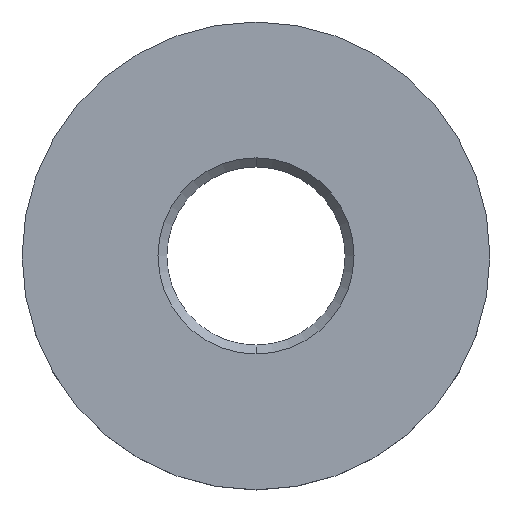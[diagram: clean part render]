
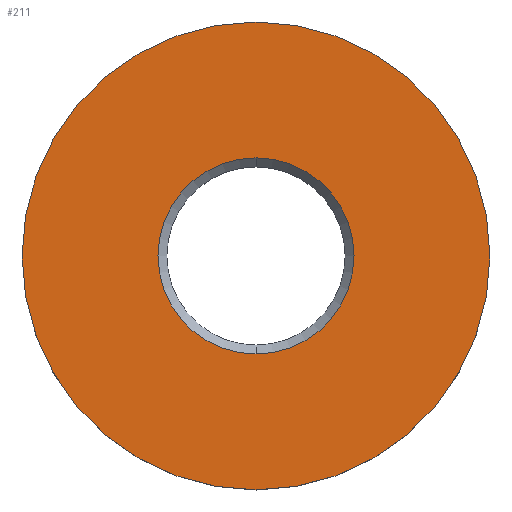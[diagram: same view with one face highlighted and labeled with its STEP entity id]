
A CAD part, top view. The second image highlights one B-rep face of the part: STEP entity #211.
In plain terms, the highlighted free-form (B-spline) face has degree [1, 1] with [2, 2] control points.
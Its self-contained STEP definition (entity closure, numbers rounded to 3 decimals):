
#58=CARTESIAN_POINT('',(0.,0.,3.));
#59=DIRECTION('',(0.,0.,1.));
#60=DIRECTION('',(0.,1.,0.));
#61=AXIS2_PLACEMENT_3D('',#58,#59,#60);
#63=CARTESIAN_POINT('',(0.,0.,3.));
#64=DIRECTION('',(0.,0.,1.));
#65=DIRECTION('',(0.,-1.,0.));
#66=AXIS2_PLACEMENT_3D('',#63,#64,#65);
#68=CARTESIAN_POINT('',(0.,0.,3.));
#69=DIRECTION('',(0.,0.,-1.));
#70=DIRECTION('',(0.,1.,0.));
#71=AXIS2_PLACEMENT_3D('',#68,#69,#70);
#73=CARTESIAN_POINT('',(0.,0.,3.));
#74=DIRECTION('',(0.,0.,-1.));
#75=DIRECTION('',(0.,-1.,0.));
#76=AXIS2_PLACEMENT_3D('',#73,#74,#75);
#107=CARTESIAN_POINT('',(0.,10.5,3.));
#108=CARTESIAN_POINT('',(0.,-10.5,3.));
#109=VERTEX_POINT('',#107);
#110=VERTEX_POINT('',#108);
#111=CARTESIAN_POINT('',(0.,4.4,3.));
#112=CARTESIAN_POINT('',(0.,-4.4,3.));
#113=VERTEX_POINT('',#111);
#114=VERTEX_POINT('',#112);
#195=CARTESIAN_POINT('',(10.92,-10.92,3.));
#196=CARTESIAN_POINT('',(-10.92,-10.92,3.));
#197=CARTESIAN_POINT('',(10.92,10.92,3.));
#198=CARTESIAN_POINT('',(-10.92,10.92,3.));
#199=B_SPLINE_SURFACE_WITH_KNOTS('',1,1,((#195,#196),(#197,#198)),.UNSPECIFIED.,
.F.,.F.,.F.,(2,2),(2,2),(-10.92,10.92),(-10.92,10.92),.UNSPECIFIED.);
#201=ORIENTED_EDGE('',*,*,#200,.F.);
#203=ORIENTED_EDGE('',*,*,#202,.F.);
#204=EDGE_LOOP('',(#201,#203));
#205=FACE_OUTER_BOUND('',#204,.F.);
#206=ORIENTED_EDGE('',*,*,#185,.F.);
#208=ORIENTED_EDGE('',*,*,#207,.F.);
#209=EDGE_LOOP('',(#206,#208));
#210=FACE_BOUND('',#209,.F.);
#62=CIRCLE('',#61,10.5);
#67=CIRCLE('',#66,10.5);
#72=CIRCLE('',#71,4.4);
#77=CIRCLE('',#76,4.4);
#185=EDGE_CURVE('',#113,#114,#72,.T.);
#200=EDGE_CURVE('',#109,#110,#62,.T.);
#202=EDGE_CURVE('',#110,#109,#67,.T.);
#207=EDGE_CURVE('',#114,#113,#77,.T.);
#211=ADVANCED_FACE('',(#205,#210),#199,.T.);
